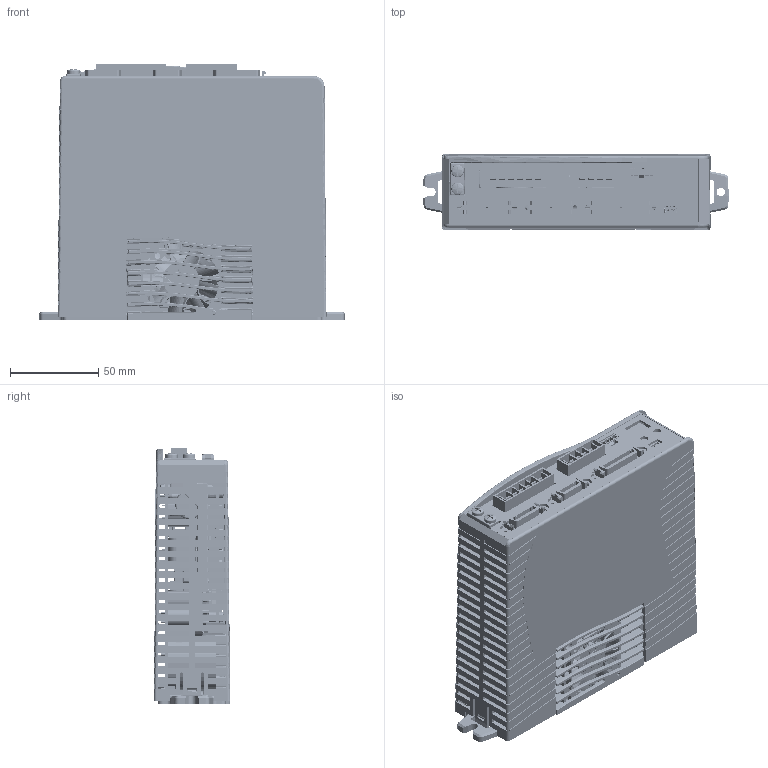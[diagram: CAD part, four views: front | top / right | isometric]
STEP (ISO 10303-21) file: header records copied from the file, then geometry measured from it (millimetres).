
FILE_DESCRIPTION (( 'STEP AP214' ), '1' );
FILE_NAME ('CDHD2S-003PN.STEP', '2023-09-06T02:14:30', ( '' ), ( '' ), 'SwSTEP 2.0', 'SolidWorks 2016', '' );
FILE_SCHEMA (( 'AUTOMOTIVE_DESIGN' ));
Length unit declared in the file: millimetre
Products named in the file (49): TRFr00003237-00; LEXr9RM030AF (logo); TRFr00050317-06; CONr00000020-S0; PRDr9HCSAF1z; CONr00000006-85; SCRr000000M4-02; FAN40; HSKr9HM1D501; PCB-R9HCSC01-03; socket set screw flat point_iso_ISO 4026 - M2.5 x 12-S; CAPr00000226-13_nichicon LLG2G821MELC40; LEXr9RM030AF (top); CAPr00000102-00; CAPr00000187-06_Panasonic_EETEE2G181KJ; ROTERY SW  Grayhill 94HAB10RAT-1; MECr009001D5-03; CONr00000010-65; PCB-R90C0DR0-00_a; SWTrKSS221GL-S1; CONr00000020-16; CONr10000004-11; CONr00000036-12; LEDrAPBA3010-S0; CDHD2S-003PN; PRDr9HPA01Mz; 5000750517; CONr00000004-S0; SWTrPCM12SMT-S0; R9PASM01-00; WSRr000000M3-32; LEXr9RM030AF; chip; SCRr000000M3-02; PRDr9RD0000z; CONr00000004-76; CONr0000RJ45-23; LED DIGIT  DISPLAY - NINGBO-FYS-3911AX_BX-XX-1; PRDr9HPA01MA; HESr0CASR6NP-00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
Assembly tree (62 placements, depth 4):
  CDHD2S-003PN
    PRDr9HPA01Mz
      PRDr9HPA01MA
        R9PASM01-00
        CONr00000004-S0
        CONr10000004-11
        CONr00000006-85
        CAPr00000158-02_nichicon LLG2G821MELC40  x2
        CAPr00000102-00
        CAPr00000102-00
        CAPr00000187-06_Panasonic_EETEE2G181KJ  x2
        CAPr00000226-13_nichicon LLG2G821MELC40
        DSWr00GBU608-00
        HESr0CASR6NP-00  x2
        TRFr00003237-00
        TRFr00050317-06
        CAPr00000223-04
        CONr00000040-40
      SCRr000000M3-44_SEMS SCR  M3x6mm WITH INT TOOTH LOCK WASHER ZINC  x4
      SCRr000000M4-02  x2
    HSKr9HM1D501
    PRDr9HCSAF1z
      PCB-R9HCSC01-03
      CONr00000040-40
      CONr00000004-76
      SWTrKSS221GL-S1
      CONr00000010-65
      LEDrAPBA3010-S0
      CONr00000036-12
      CONr00000026-25
      CONr0000RJ45-23  x2
      CONr00000020-16
      SWTrPCM12SMT-S0
    SCRr000000M3-44_SEMS SCR  M3x6mm WITH INT TOOTH LOCK WASHER ZINC  x4
    PRDr9RD0000z
      PCB-R90C0DR0-00_a
      LED DIGIT  DISPLAY - NINGBO-FYS-3911AX_BX-XX-1
      ROTERY SW  Grayhill 94HAB10RAT-1  x2
      CONr00000020-S0
      5000750517
      PCB-R90C0DR0-00
    MECr009001D5-03
    SCRr000000M3-02
    WSRr000000M3-32
    LEXr9RM030AF
    LEXr9RM030AF (top)
    LEXr9RM030AF (logo)
    fan-40-40-10
    socket set screw flat point_iso_ISO 4026 - M2.5 x 12-S
    FAN40
    chip
Bounding box: 173.12 x 43.2 x 144.7 mm (x, y, z)
Volume: 379113.5 mm3; surface area: 328150.1 mm2
Topology: 118 solids, 233 shells, 19454 faces, 55273 edges, 36144 vertices
Faces by surface type: plane 13180, cylinder 3986, bspline 1092, cone 786, torus 352, sphere 58
Entity records: 561950 total; most frequent: CARTESIAN_POINT 162743, ORIENTED_EDGE 80260, DIRECTION 67522, EDGE_CURVE 40300, VECTOR 28360, LINE 28360, VERTEX_POINT 26651, AXIS2_PLACEMENT_3D 19581
